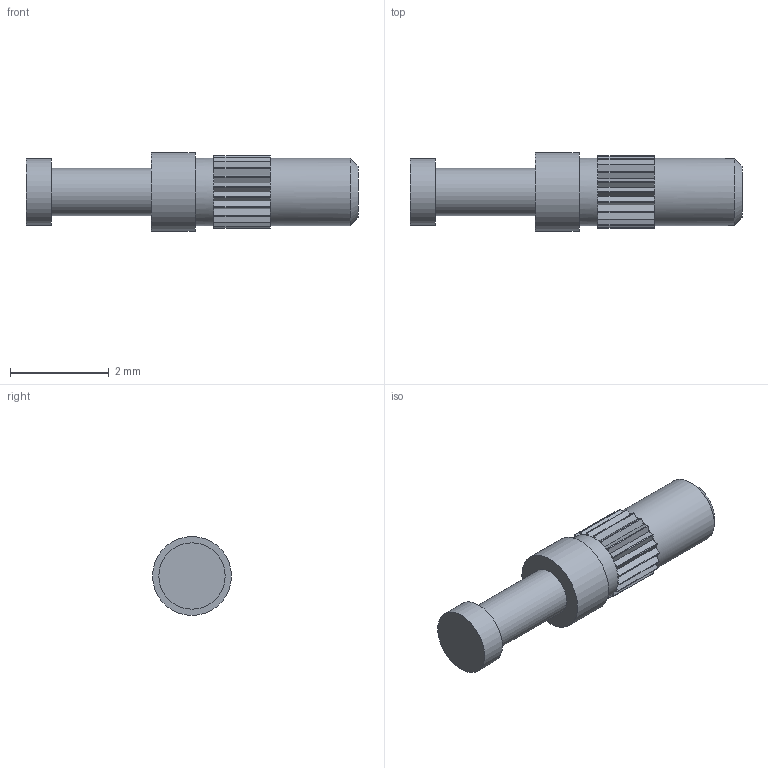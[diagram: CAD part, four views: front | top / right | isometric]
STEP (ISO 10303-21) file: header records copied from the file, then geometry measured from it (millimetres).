
FILE_DESCRIPTION(/* description */ (''),/* implementation_level */ '2;1');
FILE_NAME(/* name */ 'Z:\STEP folder\160-3747-01.ipt.stp',/* time_stamp */ '2016-12-07T10:52:12+00:00',/* author */ ('Paul Karlsons'),/* organization */ (''),/* preprocessor_version */ 'ST-DEVELOPER v15.2',/* originating_system */ 'Autodesk Inventor 2014',/* authorisation */ '');
FILE_SCHEMA (('AUTOMOTIVE_DESIGN { 1 0 10303 214 3 1 1 }'));
Length unit declared in the file: millimetre
Products named in the file (1): 160-3747-01
Bounding box: 6.73 x 1.6 x 1.6 mm (x, y, z)
Volume: 8.8 mm3; surface area: 34.5 mm2
Topology: 1 solids, 1 shells, 165 faces, 391 edges, 231 vertices
Faces by surface type: plane 137, cylinder 27, cone 1
Full cylindrical faces by diameter (mm): 0.965 x1, 1.346 x1, 1.359 x1, 1.374 x1, 1.6 x1
Entity records: 4647 total; most frequent: DIRECTION 856, CARTESIAN_POINT 778, ORIENTED_EDGE 766, EDGE_CURVE 383, AXIS2_PLACEMENT_3D 307, LINE 242, VECTOR 242, VERTEX_POINT 229
